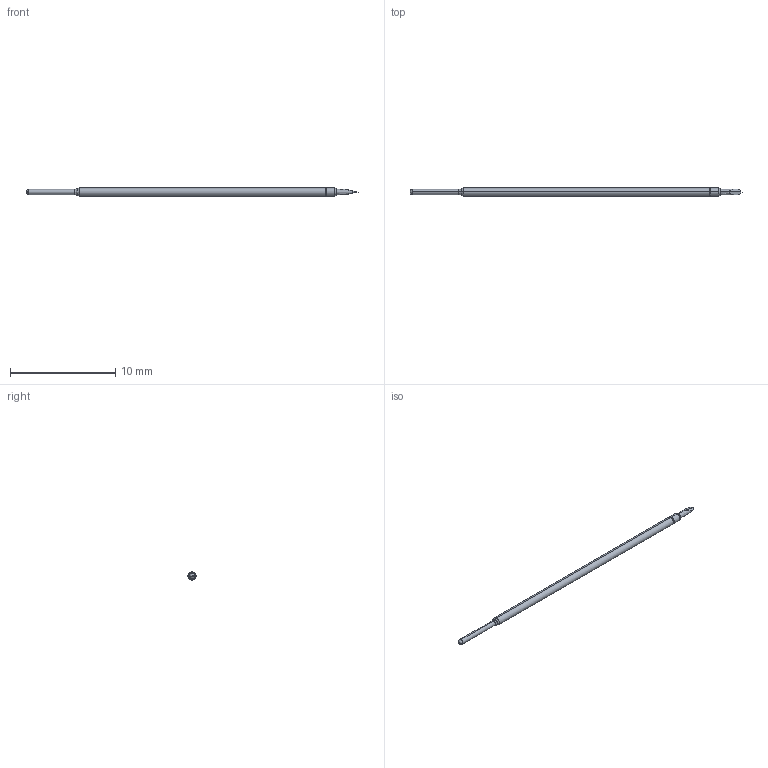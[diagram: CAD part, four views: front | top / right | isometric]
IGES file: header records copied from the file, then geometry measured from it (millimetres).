
Start section: SolidWorks IGES file using analytic representation for surfaces
Global section: file name: C:\Documents and Settings\mrumschlag\Desktop\changes\new\test\I FULL.IGS; native system: SolidWorks 2011; preprocessor: SolidWorks 2011; author: mrumschlag; date: 110630.142732; units: inch
Bounding box: 31.58 x 0.76 x 0.76 mm (x, y, z)
Surface area: 69.9 mm2 (no closed solid volume)
Topology: 0 solids, 0 shells, 27 faces, 166 edges, 164 vertices
Faces by surface type: revolution 14, bspline 13
